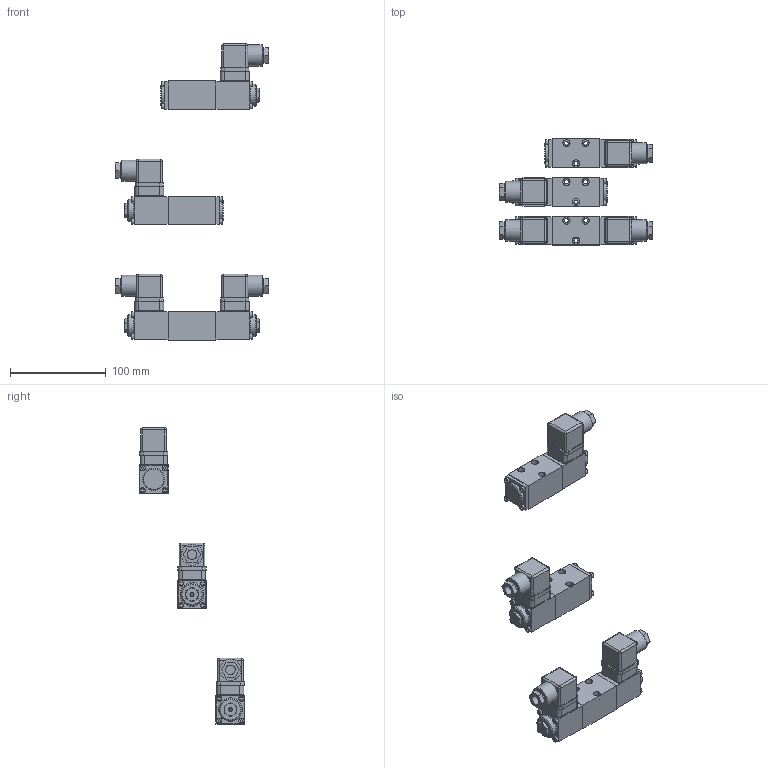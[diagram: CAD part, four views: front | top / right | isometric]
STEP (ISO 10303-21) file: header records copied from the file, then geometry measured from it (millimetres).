
FILE_DESCRIPTION(('Bauteilbeschreibung','HiCAD-Model','HiCAD-STEP-TRANSLATION','Bauteilbeschreibung'),'2;1');
FILE_NAME('D:/WDPFA03-5.STP','2006-08-21T09:34:27+00:00',('Konstrukteur'),('Konstrukteur Firma GmbH'),'HiCAD3 V1210 STEP 1.6.2005','HiCAD3 V1210','confidential');
FILE_SCHEMA(('AUTOMOTIVE_DESIGN { 1 2 10303 214 0 1 1 1 }'));
Length unit declared in the file: millimetre
Products named in the file (72): WDPFA03_5; WDPFA03_A_B_V_S_5; BF980B68; A96909DD; IN6KTM3; IN6KTM30; IN6KTM31; IN6KTM32; IN6KTM33; IN6KTM34; IN6KTM35; IN6KTM36; IN6KTM37; IN6KTM38; AB0E3F5C; A86115F3; A6EB7CD7; CA9517B3; CA9517B30; DICHTUNG; AB0E3F5C0; A86115F30; A6EB7CD70; CA9517B31; CA9517B32; DICHTUNG0; D82DEE49; D82DEE490; WDPFA03_AC1_S_5; AB9113E1; A96909DD0; IN6KTM39; IN6KTM310; IN6KTM311; IN6KTM312; IN6KTM313; AB0E3F5C1; A86115F31; A6EB7CD71; CA9517B33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
Assembly tree (71 placements, depth 6):
  WDPFA03_5
    WDPFA03_A_B_V_S_5
      BF980B68
        A96909DD
        IN6KTM3
          IN6KTM30
          IN6KTM31
          IN6KTM32
          IN6KTM33
        IN6KTM34
          IN6KTM35
          IN6KTM36
          IN6KTM37
          IN6KTM38
        AB0E3F5C
          A86115F3
          A6EB7CD7
          CA9517B3
          CA9517B30
            DICHTUNG
        AB0E3F5C0
          A86115F30
          A6EB7CD70
          CA9517B31
          CA9517B32
            DICHTUNG0
        D82DEE49
        D82DEE490
    WDPFA03_AC1_S_5
      AB9113E1
        A96909DD0
        IN6KTM39
          IN6KTM310
          IN6KTM311
          IN6KTM312
          IN6KTM313
        AB0E3F5C1
          A86115F31
          A6EB7CD71
          CA9517B33
          CA9517B34
            DICHTUNG1
        D82DEE491
        FF7E946B
        FF7E946B0
          IN6KTM314
            IN6KTM315
            IN6KTM316
            IN6KTM317
            IN6KTM318
    WDPFA03_CB2_S_5
      AE36DBB3
        A96909DD1
        IN6KTM319
          IN6KTM320
          IN6KTM321
          IN6KTM322
          IN6KTM323
        AB0E3F5C2
          A86115F32
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Bounding box: 160 x 110 x 308.5 mm (x, y, z)
Volume: 403341.8 mm3; surface area: 119610.8 mm2
Topology: 61 solids, 61 shells, 1045 faces, 2372 edges, 1579 vertices
Faces by surface type: plane 652, cylinder 303, cone 62, sphere 16, torus 12
Full cylindrical faces by diameter (mm): 1.5 x12, 2.5 x4, 2.9 x4, 3 x36, 3.4 x24, 4.2 x13, 4.5 x4, 5.5 x24, 6.5 x4, 6.8 x4, 6.9 x15, 7.5 x9, 8 x8, 10 x8, 12 x4, 15 x8, 22 x4, 23 x6
Entity records: 49959 total; most frequent: CARTESIAN_POINT 7075, DIRECTION 4982, ORIENTED_EDGE 4064, COLOUR_RGB 3126, PRESENTATION_STYLE_ASSIGNMENT 3126, OVER_RIDING_STYLED_ITEM 3077, CURVE_STYLE 2032, DRAUGHTING_PRE_DEFINED_CURVE_FONT 2032
